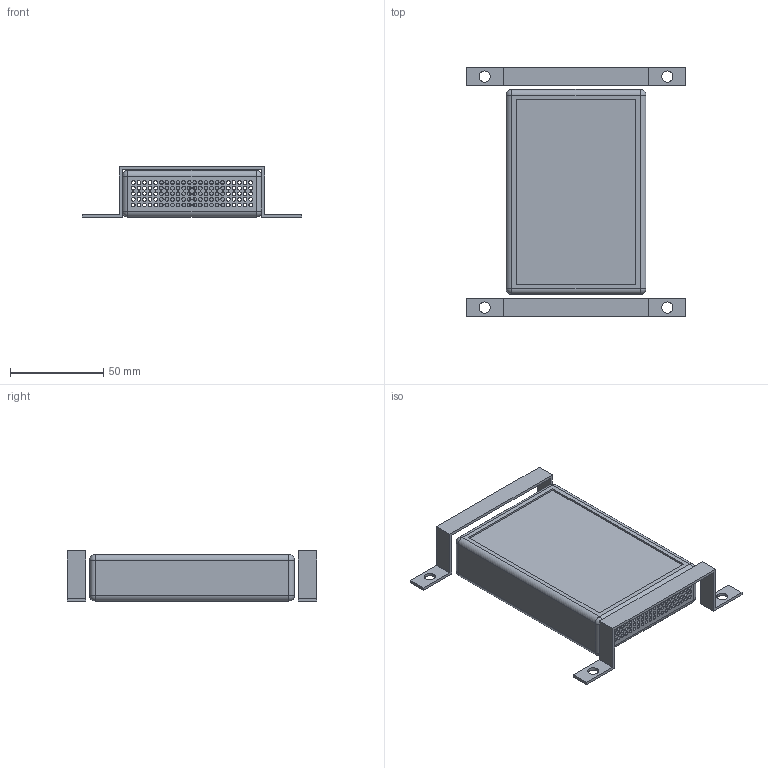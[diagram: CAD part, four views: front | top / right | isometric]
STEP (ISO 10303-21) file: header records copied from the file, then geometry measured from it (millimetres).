
FILE_DESCRIPTION(('FreeCAD Model'),'2;1');
FILE_NAME('Y:/3-AV-Parts-Sales/Produkte/nexgentec/NGTC-BTI/BTIR2/drawings/NGTC-BTIR2 complete.step','2022-01-25T15:16:16',('Author'),(''), 'Open CASCADE STEP processor 7.3','FreeCAD','Unknown');
FILE_SCHEMA(('AUTOMOTIVE_DESIGN { 1 0 10303 214 1 1 1 1 }'));
Length unit declared in the file: millimetre
Products named in the file (5): Body_BTIR2; Body_NGTC-TVI/BTIR2; Body_RJ45; Body_RJ046; Body_NGTC-TVI/BTIR2001
Bounding box: 118 x 134 x 26.9 mm (x, y, z)
Volume: 50490.5 mm3; surface area: 59717.3 mm2
Topology: 5 solids, 5 shells, 307 faces, 828 edges, 528 vertices
Faces by surface type: cylinder 176, plane 123, sphere 8
Full cylindrical faces by diameter (mm): 2 x160, 6 x4
Entity records: 21544 total; most frequent: CARTESIAN_POINT 4280, DIRECTION 3264, LINE 1780, VECTOR 1780, ORIENTED_EDGE 1640, PCURVE 1640, DEFINITIONAL_REPRESENTATION 1640, EDGE_CURVE 820
